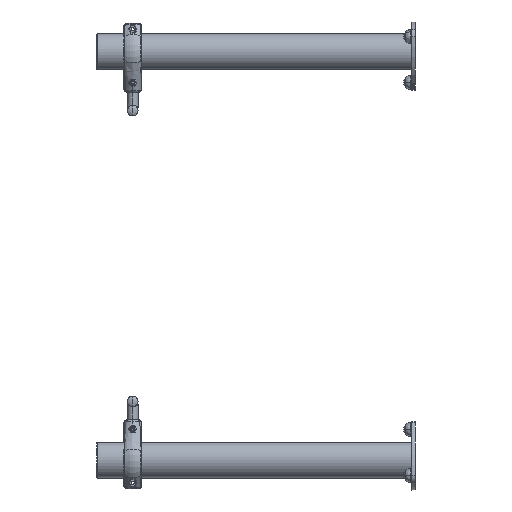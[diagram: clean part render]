
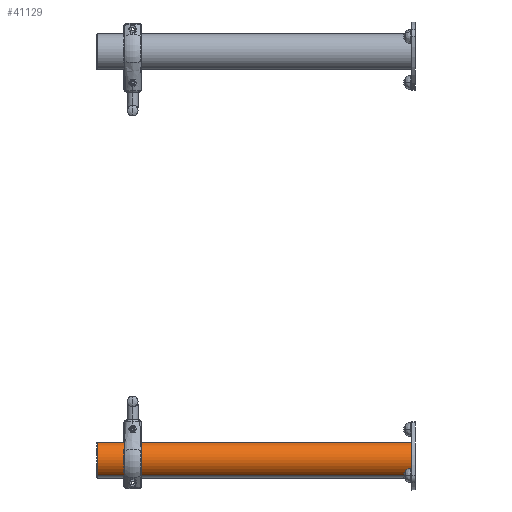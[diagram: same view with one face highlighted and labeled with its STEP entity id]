
A CAD part, left-side view. The second image highlights one B-rep face of the part: STEP entity #41129.
In plain terms, the highlighted cylindrical face has radius 57.15 mm (diameter 114.3 mm), a partial arc.
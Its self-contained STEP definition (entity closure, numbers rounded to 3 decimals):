
#1836 = DIRECTION ( 'NONE',  ( 0., 1., 0. ) ) ;
#5843 = DIRECTION ( 'NONE',  ( 0., -1., 0. ) ) ;
#7019 = FACE_OUTER_BOUND ( 'NONE', #46000, .T. ) ;
#9765 = ORIENTED_EDGE ( 'NONE', *, *, #36274, .F. ) ;
#14146 = CARTESIAN_POINT ( 'NONE',  ( -1921.425, 1012., -600.507 ) ) ;
#16226 = AXIS2_PLACEMENT_3D ( 'NONE', #50200, #65058, #44689 ) ;
#16660 = CARTESIAN_POINT ( 'NONE',  ( -1950., 12., -650. ) ) ;
#16838 = CARTESIAN_POINT ( 'NONE',  ( -1950., 12., -650. ) ) ;
#21812 = CIRCLE ( 'NONE', #38273, 57.15 ) ;
#23407 = CARTESIAN_POINT ( 'NONE',  ( -1978.575, 12., -699.493 ) ) ;
#24132 = VERTEX_POINT ( 'NONE', #31342 ) ;
#26855 = AXIS2_PLACEMENT_3D ( 'NONE', #16660, #1836, #64531 ) ;
#30525 = CIRCLE ( 'NONE', #16226, 57.15 ) ;
#31342 = CARTESIAN_POINT ( 'NONE',  ( -1921.425, 12., -600.507 ) ) ;
#31954 = EDGE_CURVE ( 'NONE', #51971, #49432, #32567, .T. ) ;
#32567 = LINE ( 'NONE', #49048, #50849 ) ;
#34544 = EDGE_CURVE ( 'NONE', #64198, #49432, #30525, .T. ) ;
#36274 = EDGE_CURVE ( 'NONE', #24132, #51971, #21812, .T. ) ;
#37243 = ORIENTED_EDGE ( 'NONE', *, *, #34544, .T. ) ;
#37331 = CYLINDRICAL_SURFACE ( 'NONE', #26855, 57.15 ) ;
#38273 = AXIS2_PLACEMENT_3D ( 'NONE', #16838, #5843, #48161 ) ;
#40988 = CARTESIAN_POINT ( 'NONE',  ( -1921.425, 12., -600.507 ) ) ;
#41129 = ADVANCED_FACE ( 'NONE', ( #7019 ), #37331, .T. ) ;
#43411 = CARTESIAN_POINT ( 'NONE',  ( -1978.575, 1012., -699.493 ) ) ;
#44689 = DIRECTION ( 'NONE',  ( 0.5, 0., 0.866 ) ) ;
#45819 = LINE ( 'NONE', #40988, #51277 ) ;
#46000 = EDGE_LOOP ( 'NONE', ( #9765, #65620, #37243, #65856 ) ) ;
#48161 = DIRECTION ( 'NONE',  ( 0.5, 0., 0.866 ) ) ;
#49048 = CARTESIAN_POINT ( 'NONE',  ( -1978.575, 12., -699.493 ) ) ;
#49432 = VERTEX_POINT ( 'NONE', #43411 ) ;
#50200 = CARTESIAN_POINT ( 'NONE',  ( -1950., 1012., -650. ) ) ;
#50849 = VECTOR ( 'NONE', #53561, 1000. ) ;
#51277 = VECTOR ( 'NONE', #51678, 1000. ) ;
#51678 = DIRECTION ( 'NONE',  ( 0., 1., 0. ) ) ;
#51971 = VERTEX_POINT ( 'NONE', #23407 ) ;
#53561 = DIRECTION ( 'NONE',  ( 0., 1., 0. ) ) ;
#55190 = EDGE_CURVE ( 'NONE', #24132, #64198, #45819, .T. ) ;
#64198 = VERTEX_POINT ( 'NONE', #14146 ) ;
#64531 = DIRECTION ( 'NONE',  ( -0.5, 0., -0.866 ) ) ;
#65058 = DIRECTION ( 'NONE',  ( 0., -1., 0. ) ) ;
#65620 = ORIENTED_EDGE ( 'NONE', *, *, #55190, .T. ) ;
#65856 = ORIENTED_EDGE ( 'NONE', *, *, #31954, .F. ) ;
